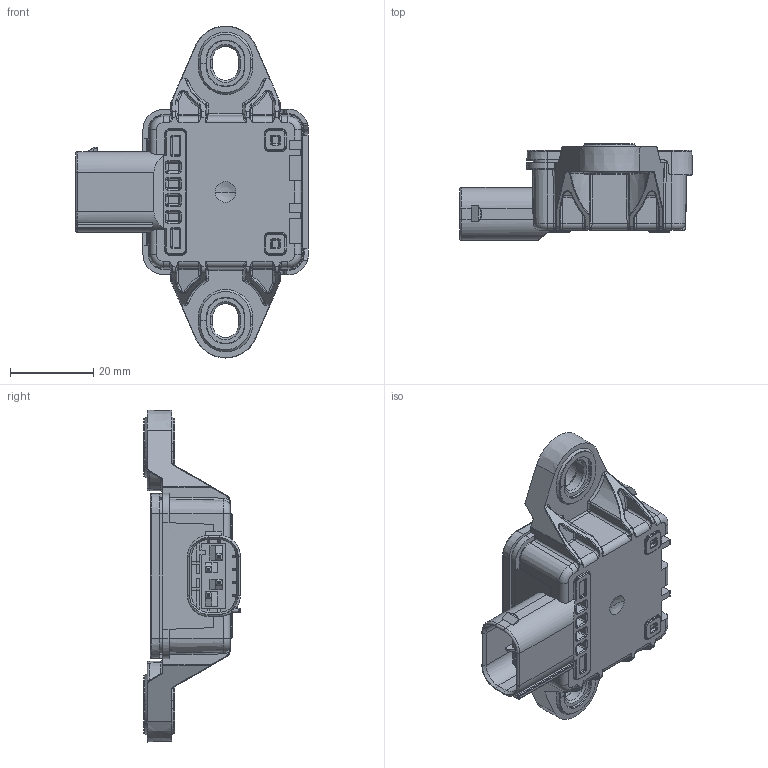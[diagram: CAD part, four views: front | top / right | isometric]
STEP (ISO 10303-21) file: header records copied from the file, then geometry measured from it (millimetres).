
FILE_DESCRIPTION((''),'2;1');
FILE_NAME('0274A00461_SW0001','2011-05-02T',('klg2bp'),(''),'PRO/ENGINEER BY PARAMETRIC TECHNOLOGY CORPORATION, 2009380','PRO/ENGINEER BY PARAMETRIC TECHNOLOGY CORPORATION, 2009380','');
FILE_SCHEMA(('AUTOMOTIVE_DESIGN_CC2 { 1 2 10303 214 -1 1 5 2 }'));
Products named in the file (1): 0274A00461_SW0001
Bounding box: 56.03 x 23.27 x 80 mm (x, y, z)
Volume: 31640.1 mm3; surface area: 12978.4 mm2
Topology: 1 solids, 1 shells, 1536 faces, 3600 edges, 2105 vertices
Faces by surface type: plane 510, cylinder 435, bspline 322, torus 140, cone 87, sphere 42
Entity records: 67668 total; most frequent: CARTESIAN_POINT 24026, ORIENTED_EDGE 7196, DIRECTION 6414, EDGE_CURVE 3598, AXIS2_PLACEMENT_3D 2352, VERTEX_POINT 2105, VECTOR 1710, LINE 1710
